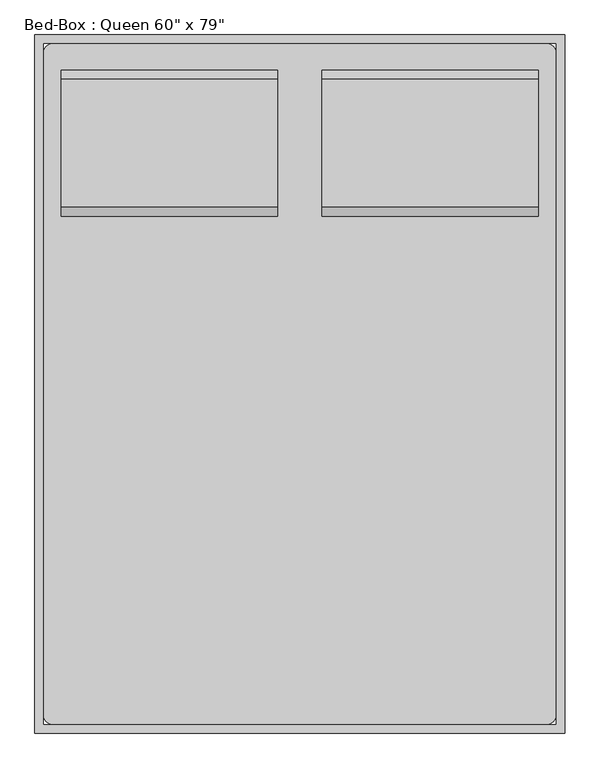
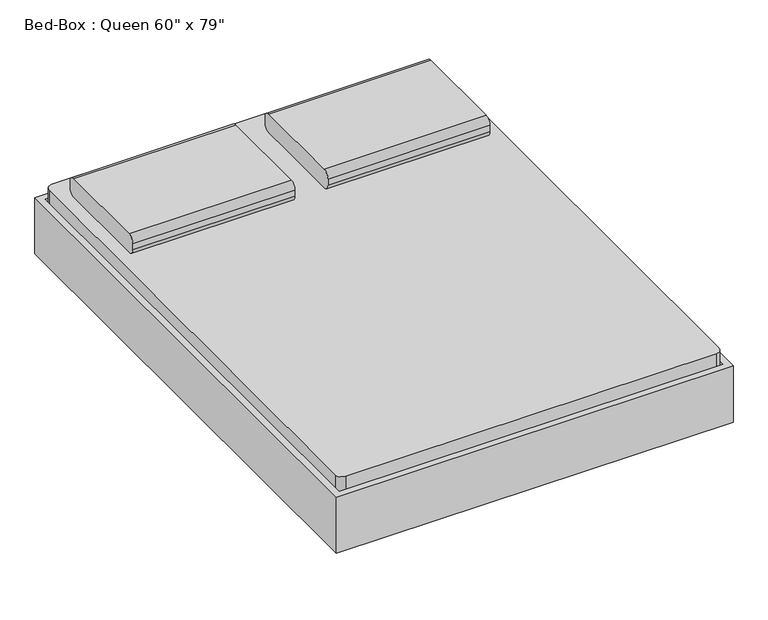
"""IFC4 building model written with IfcOpenShell, lengths in millimetres: furniture geometry."""

from ifc_helpers import new_model, si_unit, point, frame, frame_2d, origin, place, context, project, spatial, polyline, circle_curve, trimmed, segment, composite_curve, outline, extrude, source, transform, mapped, element, save
from ifc_brep_helpers import plane_surface, cylinder_surface, revolved_surface, advanced_brep


def furniture_fb3a1094(model_context):
    return source(origin(), model_context, "Body", "SolidModel", [
        extrude(outline(composite_curve([segment(polyline([(641.8704918, 406.4), (273.5704918, 406.4)]), True, "CONTINUOUS"), segment(trimmed(circle_curve(frame_2d((273.5704918, 431.8)), 25.4), [point((273.5704918, 406.4))], [point((248.1704918, 431.8))], False, "CARTESIAN"), True, "CONTINUOUS"), segment(polyline([(248.1704918, 431.8), (248.1704918, 457.2)]), True, "CONTINUOUS"), segment(trimmed(circle_curve(frame_2d((273.5704918, 457.2)), 25.4), [point((248.1704918, 457.2))], [point((273.5704918, 482.6))], False, "CARTESIAN"), True, "CONTINUOUS"), segment(polyline([(273.5704918, 482.6), (641.8704918, 482.6)]), True, "CONTINUOUS"), segment(trimmed(circle_curve(frame_2d((641.8704918, 457.2)), 25.4), [point((641.8704918, 482.6))], [point((667.2704918, 457.2))], False, "CARTESIAN"), True, "CONTINUOUS"), segment(polyline([(667.2704918, 457.2), (667.2704918, 431.8)]), True, "CONTINUOUS"), segment(trimmed(circle_curve(frame_2d((641.8704918, 431.8)), 25.4), [point((667.2704918, 431.8))], [point((641.8704918, 406.4))], False, "CARTESIAN"), True, "CONTINUOUS")], self_intersect=False)), frame((402.652459, 0.0, 0.0), z_axis=(1.0, 0.0, 0.0), x_axis=(0.0, 1.0, 0.0)), (0.0, 0.0, 1.0), 622.3),
        extrude(outline(composite_curve([segment(polyline([(641.8704918, 406.4), (273.5704918, 406.4)]), True, "CONTINUOUS"), segment(trimmed(circle_curve(frame_2d((273.5704918, 431.8)), 25.4), [point((273.5704918, 406.4))], [point((248.1704918, 431.8))], False, "CARTESIAN"), True, "CONTINUOUS"), segment(polyline([(248.1704918, 431.8), (248.1704918, 457.2)]), True, "CONTINUOUS"), segment(trimmed(circle_curve(frame_2d((273.5704918, 457.2)), 25.4), [point((248.1704918, 457.2))], [point((273.5704918, 482.6))], False, "CARTESIAN"), True, "CONTINUOUS"), segment(polyline([(273.5704918, 482.6), (641.8704918, 482.6)]), True, "CONTINUOUS"), segment(trimmed(circle_curve(frame_2d((641.8704918, 457.2)), 25.4), [point((641.8704918, 482.6))], [point((667.2704918, 457.2))], False, "CARTESIAN"), True, "CONTINUOUS"), segment(polyline([(667.2704918, 457.2), (667.2704918, 431.8)]), True, "CONTINUOUS"), segment(trimmed(circle_curve(frame_2d((641.8704918, 431.8)), 25.4), [point((667.2704918, 431.8))], [point((641.8704918, 406.4))], False, "CARTESIAN"), True, "CONTINUOUS")], self_intersect=False)), frame((-346.647541, 0.0, 0.0), z_axis=(1.0, 0.0, 0.0), x_axis=(0.0, 1.0, 0.0)), (0.0, 0.0, 1.0), 622.3),
        advanced_brep(
        [(-397.1231784, 514.8704918, 177.8), (-397.1231784, 438.6704918, 177.8), (-397.1231784, 438.6704918, 196.85), (-397.1231784, 514.8704918, 196.85), (-346.3231784, 514.8704918, 177.8), (-346.3231784, 438.6704918, 177.8), (-334.1869899, 438.6704918, 196.85), (-334.1869899, 514.8704918, 196.85), (-270.2523099, 514.8704918, 14.6654962), (-270.2523099, 438.6704918, 14.6654962), (-252.9871466, 438.6704918, 22.716374), (-252.9871466, 514.8704918, 22.716374), (-247.2320921, 438.6704918, 0.0), (-247.2320921, 514.8704918, 0.0), (-247.2320921, 438.6704918, 19.05), (-247.2320921, 514.8704918, 19.05), (-168.6195862, 514.8704918, 0.0), (-168.6195862, 438.6704918, 0.0), (-168.6195862, 438.6704918, 19.05), (-168.6195862, 514.8704918, 19.05), (-155.9195862, 438.6704918, 3.4029547), (-155.9195862, 514.8704918, 3.4029547), (-165.4445862, 438.6704918, 19.9007387), (-165.4445862, 514.8704918, 19.9007387), (-95.822541, 514.8704918, 38.1), (-95.822541, 438.6704918, 38.1), (-100.9269731, 438.6704918, 57.15), (-100.9269731, 514.8704918, 57.15), (774.4518216, 514.8704918, 38.1), (774.4518216, 438.6704918, 38.1), (779.5562537, 438.6704918, 57.15), (779.5562537, 514.8704918, 57.15), (834.5488669, 514.8704918, 3.4029547), (834.5488669, 438.6704918, 3.4029547), (844.0738669, 438.6704918, 19.9007387), (844.0738669, 514.8704918, 19.9007387), (847.2488669, 438.6704918, 0.0), (847.2488669, 514.8704918, 0.0), (847.2488669, 438.6704918, 19.05), (847.2488669, 514.8704918, 19.05), (925.8613728, 514.8704918, 0.0), (925.8613728, 438.6704918, 0.0), (925.8613728, 438.6704918, 19.05), (925.8613728, 514.8704918, 19.05), (948.8815906, 438.6704918, 14.6654962), (948.8815906, 514.8704918, 14.6654962), (931.6164272, 438.6704918, 22.716374), (931.6164272, 514.8704918, 22.716374), (1024.952459, 514.8704918, 177.8), (1024.952459, 438.6704918, 177.8), (1012.8162705, 438.6704918, 196.85), (1012.8162705, 514.8704918, 196.85), (1075.752459, 514.8704918, 177.8), (1075.752459, 514.8704918, 196.85), (1075.752459, 438.6704918, 196.85), (1075.752459, 438.6704918, 177.8)],
        [
            (0, 1),
            (1, 2),
            (2, 3),
            (3, 0),
            (0, 4),
            (4, 5),
            (5, 1),
            (5, 6),
            (6, 2),
            (6, 7),
            (7, 3),
            (7, 4),
            (4, 8),
            (8, 9),
            (9, 5),
            (9, 10),
            (10, 6),
            (10, 11),
            (11, 7),
            (11, 8),
            (12, 9, circle_curve(frame((-247.2320921, 438.6704918, 25.4), z_axis=(0.0, 1.0, 0.0), x_axis=(-0.9063077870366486, 0.0, -0.42261826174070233)), 25.4)),
            (8, 13, circle_curve(frame((-247.2320921, 514.8704918, 25.4), z_axis=(0.0, -1.0, 0.0), x_axis=(-0.9063077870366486, 0.0, -0.42261826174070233)), 25.4)),
            (13, 12),
            (14, 10, circle_curve(frame((-247.2320921, 438.6704918, 25.4), z_axis=(0.0, 1.0, 0.0), x_axis=(-0.9063077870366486, 0.0, -0.42261826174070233)), 6.35)),
            (12, 14),
            (15, 11, circle_curve(frame((-247.2320921, 514.8704918, 25.4), z_axis=(0.0, 1.0, 0.0), x_axis=(-0.9063077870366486, 0.0, -0.42261826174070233)), 6.35)),
            (14, 15),
            (15, 13),
            (13, 16),
            (16, 17),
            (17, 12),
            (17, 18),
            (18, 14),
            (18, 19),
            (19, 15),
            (19, 16),
            (20, 17, circle_curve(frame((-168.6195862, 438.6704918, 25.4), z_axis=(0.0, 1.0, 0.0), x_axis=(0.0, 0.0, -1.0)), 25.4)),
            (16, 21, circle_curve(frame((-168.6195862, 514.8704918, 25.4), z_axis=(0.0, -1.0, 0.0), x_axis=(0.0, 0.0, -1.0)), 25.4)),
            (21, 20),
            (22, 18, circle_curve(frame((-168.6195862, 438.6704918, 25.4), z_axis=(0.0, 1.0, 0.0), x_axis=(0.0, 0.0, -1.0)), 6.35)),
            (20, 22),
            (23, 19, circle_curve(frame((-168.6195862, 514.8704918, 25.4), z_axis=(0.0, 1.0, 0.0), x_axis=(0.0, 0.0, -1.0)), 6.35)),
            (22, 23),
            (23, 21),
            (21, 24),
            (24, 25),
            (25, 20),
            (25, 26),
            (26, 22),
            (26, 27),
            (27, 23),
            (27, 24),
            (24, 28),
            (28, 29),
            (29, 25),
            (29, 30),
            (30, 26),
            (30, 31),
            (31, 27),
            (31, 28),
            (28, 32),
            (32, 33),
            (33, 29),
            (33, 34),
            (34, 30),
            (34, 35),
            (35, 31),
            (35, 32),
            (36, 33, circle_curve(frame((847.2488669, 438.6704918, 25.4), z_axis=(0.0, 1.0, 0.0), x_axis=(-0.5000000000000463, 0.0, -0.8660254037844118)), 25.4)),
            (32, 37, circle_curve(frame((847.2488669, 514.8704918, 25.4), z_axis=(0.0, -1.0, 0.0), x_axis=(-0.5000000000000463, 0.0, -0.8660254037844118)), 25.4)),
            (37, 36),
            (38, 34, circle_curve(frame((847.2488669, 438.6704918, 25.4), z_axis=(0.0, 1.0, 0.0), x_axis=(-0.5000000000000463, 0.0, -0.8660254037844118)), 6.35)),
            (36, 38),
            (39, 35, circle_curve(frame((847.2488669, 514.8704918, 25.4), z_axis=(0.0, 1.0, 0.0), x_axis=(-0.5000000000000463, 0.0, -0.8660254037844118)), 6.35)),
            (38, 39),
            (39, 37),
            (37, 40),
            (40, 41),
            (41, 36),
            (41, 42),
            (42, 38),
            (42, 43),
            (43, 39),
            (43, 40),
            (44, 41, circle_curve(frame((925.8613728, 438.6704918, 25.4), z_axis=(0.0, 1.0, 0.0), x_axis=(0.0, 0.0, -1.0)), 25.4)),
            (40, 45, circle_curve(frame((925.8613728, 514.8704918, 25.4), z_axis=(0.0, -1.0, 0.0), x_axis=(0.0, 0.0, -1.0)), 25.4)),
            (45, 44),
            (46, 42, circle_curve(frame((925.8613728, 438.6704918, 25.4), z_axis=(0.0, 1.0, 0.0), x_axis=(0.0, 0.0, -1.0)), 6.35)),
            (44, 46),
            (47, 43, circle_curve(frame((925.8613728, 514.8704918, 25.4), z_axis=(0.0, 1.0, 0.0), x_axis=(0.0, 0.0, -1.0)), 6.35)),
            (46, 47),
            (47, 45),
            (45, 48),
            (48, 49),
            (49, 44),
            (49, 50),
            (50, 46),
            (50, 51),
            (51, 47),
            (51, 48),
            (52, 53),
            (53, 54),
            (54, 55),
            (55, 52),
            (48, 52),
            (55, 49),
            (54, 50),
            (53, 51),
        ],
        [
            plane_surface(frame((-397.1231784, 768.8704918, -152.9490627), z_axis=(-1.0, 0.0, 0.0), x_axis=(0.0, 1.0, 0.0))),
            plane_surface(frame((-397.1231784, 514.8704918, 177.8), z_axis=(0.0, 0.0, -1.0), x_axis=(1.0, 0.0, 0.0))),
            plane_surface(frame((-397.1231784, 438.6704918, 177.8), z_axis=(0.0, -1.0, 0.0), x_axis=(1.0, 0.0, 0.0))),
            plane_surface(frame((-397.1231784, 438.6704918, 196.85), z_axis=(0.0, 0.0, 1.0), x_axis=(1.0, 0.0, 0.0))),
            plane_surface(frame((-397.1231784, 514.8704918, 196.85), z_axis=(0.0, 1.0, 0.0), x_axis=(1.0, 0.0, 0.0))),
            plane_surface(frame((-346.3231784, 514.8704918, 177.8), z_axis=(-0.9063077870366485, 0.0, -0.4226182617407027), x_axis=(0.4226182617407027, 0.0, -0.9063077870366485))),
            plane_surface(frame((-346.3231784, 438.6704918, 177.8), z_axis=(0.0, -1.0, 0.0), x_axis=(0.4226182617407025, 0.0, -0.9063077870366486))),
            plane_surface(frame((-334.1869899, 438.6704918, 196.85), z_axis=(0.9063077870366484, 0.0, 0.4226182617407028), x_axis=(0.4226182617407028, 0.0, -0.9063077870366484))),
            plane_surface(frame((-334.1869899, 514.8704918, 196.85), z_axis=(0.0, 1.0, 0.0), x_axis=(0.42261826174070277, 0.0, -0.9063077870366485))),
            cylinder_surface(frame((-247.2320921, 768.8704918, 25.4), z_axis=(0.0, -1.0, 0.0), x_axis=(-0.9063077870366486, 0.0, -0.42261826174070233)), 25.4),
            plane_surface(frame((-247.2320921, 438.6704918, 25.4), z_axis=(0.0, -1.0, 0.0), x_axis=(-0.9063077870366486, 0.0, -0.42261826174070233))),
            revolved_surface(polyline([(-252.9871465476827, 438.6704918, 22.71637403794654), (-252.9871465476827, 514.8704918, 22.71637403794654)]), (-247.2320921, 768.8704918, 25.4), (0.0, -1.0, 0.0)),
            plane_surface(frame((-247.2320921, 514.8704918, 25.4), z_axis=(0.0, 1.0, 0.0), x_axis=(-0.9063077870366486, 0.0, -0.42261826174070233))),
            plane_surface(frame((-247.2320921, 514.8704918, 0.0), z_axis=(0.0, 0.0, -1.0), x_axis=(1.0, 0.0, 0.0))),
            plane_surface(frame((-247.2320921, 438.6704918, 0.0), z_axis=(0.0, -1.0, 0.0), x_axis=(1.0, 0.0, 0.0))),
            plane_surface(frame((-247.2320921, 438.6704918, 19.05), z_axis=(0.0, 0.0, 1.0), x_axis=(1.0, 0.0, 0.0))),
            plane_surface(frame((-247.2320921, 514.8704918, 19.05), z_axis=(0.0, 1.0, 0.0), x_axis=(1.0, 0.0, 0.0))),
            cylinder_surface(frame((-168.6195862, 768.8704918, 25.4), z_axis=(0.0, -1.0, 0.0), x_axis=(0.0, 0.0, -1.0)), 25.4),
            plane_surface(frame((-168.6195862, 438.6704918, 25.4), z_axis=(0.0, -1.0, 0.0), x_axis=(0.0, 0.0, -1.0))),
            revolved_surface(polyline([(-168.6195862, 438.6704918, 19.049999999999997), (-168.6195862, 514.8704918, 19.049999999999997)]), (-168.6195862, 768.8704918, 25.4), (0.0, -1.0, 0.0)),
            plane_surface(frame((-168.6195862, 514.8704918, 25.4), z_axis=(0.0, 1.0, 0.0), x_axis=(0.0, 0.0, -1.0))),
            plane_surface(frame((-155.9195862, 514.8704918, 3.4029547), z_axis=(0.4999999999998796, 0.0, -0.8660254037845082), x_axis=(0.8660254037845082, 0.0, 0.4999999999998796))),
            plane_surface(frame((-155.9195862, 438.6704918, 3.4029547), z_axis=(0.0, -1.0, 0.0), x_axis=(0.866025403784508, 0.0, 0.4999999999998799))),
            plane_surface(frame((-165.4445862, 438.6704918, 19.9007387), z_axis=(-0.49999999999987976, 0.0, 0.8660254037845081), x_axis=(0.8660254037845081, 0.0, 0.49999999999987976))),
            plane_surface(frame((-165.4445862, 514.8704918, 19.9007387), z_axis=(0.0, 1.0, 0.0), x_axis=(0.8660254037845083, 0.0, 0.49999999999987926))),
            plane_surface(frame((-95.822541, 514.8704918, 38.1), z_axis=(0.0, 0.0, -1.0), x_axis=(1.0, 0.0, 0.0))),
            plane_surface(frame((-95.822541, 438.6704918, 38.1), z_axis=(0.0, -1.0, 0.0), x_axis=(1.0, 0.0, 0.0))),
            plane_surface(frame((-100.9269731, 438.6704918, 57.15), z_axis=(0.0, 0.0, 1.0), x_axis=(1.0, 0.0, 0.0))),
            plane_surface(frame((-100.9269731, 514.8704918, 57.15), z_axis=(0.0, 1.0, 0.0), x_axis=(1.0, 0.0, 0.0))),
            plane_surface(frame((774.4518216, 514.8704918, 38.1), z_axis=(-0.5000000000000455, 0.0, -0.8660254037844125), x_axis=(0.8660254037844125, 0.0, -0.5000000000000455))),
            plane_surface(frame((774.4518216, 438.6704918, 38.1), z_axis=(0.0, -1.0, 0.0), x_axis=(0.866025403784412, 0.0, -0.5000000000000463))),
            plane_surface(frame((779.5562537, 438.6704918, 57.15), z_axis=(0.5000000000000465, 0.0, 0.8660254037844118), x_axis=(0.8660254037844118, 0.0, -0.5000000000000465))),
            plane_surface(frame((779.5562537, 514.8704918, 57.15), z_axis=(0.0, 1.0, 0.0), x_axis=(0.8660254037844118, 0.0, -0.5000000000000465))),
            cylinder_surface(frame((847.2488669, 768.8704918, 25.4), z_axis=(0.0, -1.0, 0.0), x_axis=(-0.5000000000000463, 0.0, -0.8660254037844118)), 25.4),
            plane_surface(frame((847.2488669, 438.6704918, 25.4), z_axis=(0.0, -1.0000000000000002, 0.0), x_axis=(-0.5000000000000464, 0.0, -0.866025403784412))),
            revolved_surface(polyline([(844.0738668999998, 438.6704918, 19.90073868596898), (844.0738668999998, 514.8704918, 19.90073868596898)]), (847.2488669, 768.8704918, 25.4), (0.0, -1.0, 0.0)),
            plane_surface(frame((847.2488669, 514.8704918, 25.4), z_axis=(0.0, 1.0000000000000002, 0.0), x_axis=(-0.5000000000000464, 0.0, -0.866025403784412))),
            plane_surface(frame((847.2488669, 514.8704918, 0.0), z_axis=(0.0, 0.0, -1.0), x_axis=(1.0, 0.0, 0.0))),
            plane_surface(frame((847.2488669, 438.6704918, 0.0), z_axis=(0.0, -1.0, 0.0), x_axis=(1.0, 0.0, 0.0))),
            plane_surface(frame((847.2488669, 438.6704918, 19.05), z_axis=(0.0, 0.0, 1.0), x_axis=(1.0, 0.0, 0.0))),
            plane_surface(frame((847.2488669, 514.8704918, 19.05), z_axis=(0.0, 1.0, 0.0), x_axis=(1.0, 0.0, 0.0))),
            cylinder_surface(frame((925.8613728, 768.8704918, 25.4), z_axis=(0.0, -1.0, 0.0), x_axis=(0.0, 0.0, -1.0)), 25.4),
            plane_surface(frame((925.8613728, 438.6704918, 25.4), z_axis=(0.0, -1.0, 0.0), x_axis=(0.0, 0.0, -1.0))),
            revolved_surface(polyline([(925.8613728, 438.6704918, 19.049999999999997), (925.8613728, 514.8704918, 19.049999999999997)]), (925.8613728, 768.8704918, 25.4), (0.0, -1.0, 0.0)),
            plane_surface(frame((925.8613728, 514.8704918, 25.4), z_axis=(0.0, 1.0, 0.0), x_axis=(0.0, 0.0, -1.0))),
            plane_surface(frame((948.8815906, 514.8704918, 14.6654962), z_axis=(0.9063077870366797, 0.0, -0.42261826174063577), x_axis=(0.42261826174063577, 0.0, 0.9063077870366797))),
            plane_surface(frame((948.8815906, 438.6704918, 14.6654962), z_axis=(0.0, -1.0, 0.0), x_axis=(0.4226182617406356, 0.0, 0.9063077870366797))),
            plane_surface(frame((931.6164272, 438.6704918, 22.716374), z_axis=(-0.9063077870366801, 0.0, 0.42261826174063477), x_axis=(0.42261826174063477, 0.0, 0.9063077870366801))),
            plane_surface(frame((931.6164272, 514.8704918, 22.716374), z_axis=(0.0, 1.0, 0.0), x_axis=(0.4226182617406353, 0.0, 0.9063077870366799))),
            plane_surface(frame((1075.752459, 768.8704918, -152.9490627), z_axis=(1.0, 0.0, 0.0), x_axis=(0.0, 1.0, 0.0))),
            plane_surface(frame((1024.952459, 514.8704918, 177.8), z_axis=(0.0, 0.0, -1.0), x_axis=(1.0, 0.0, 0.0))),
            plane_surface(frame((1024.952459, 438.6704918, 177.8), z_axis=(0.0, -1.0, 0.0), x_axis=(1.0, 0.0, 0.0))),
            plane_surface(frame((1012.8162705, 438.6704918, 196.85), z_axis=(0.0, 0.0, 1.0), x_axis=(1.0, 0.0, 0.0))),
            plane_surface(frame((1012.8162705, 514.8704918, 196.85), z_axis=(0.0, 1.0, 0.0), x_axis=(1.0, 0.0, 0.0))),
        ],
        [
            (0, [[1, 2, 3, 4]]),
            (1, [[-1, 5, 6, 7]]),
            (2, [[-2, -7, 8, 9]]),
            (3, [[-3, -9, 10, 11]]),
            (4, [[-4, -11, 12, -5]]),
            (5, [[-6, 13, 14, 15]]),
            (6, [[-8, -15, 16, 17]]),
            (7, [[-10, -17, 18, 19]]),
            (8, [[-12, -19, 20, -13]]),
            (9, [[21, -14, 22, 23]]),
            (10, [[24, -16, -21, 25]]),
            (11, [[26, -18, -24, 27]]),
            (12, [[-22, -20, -26, 28]]),
            (13, [[-23, 29, 30, 31]]),
            (14, [[-25, -31, 32, 33]]),
            (15, [[-27, -33, 34, 35]]),
            (16, [[-28, -35, 36, -29]]),
            (17, [[37, -30, 38, 39]]),
            (18, [[40, -32, -37, 41]]),
            (19, [[42, -34, -40, 43]]),
            (20, [[-38, -36, -42, 44]]),
            (21, [[-39, 45, 46, 47]]),
            (22, [[-41, -47, 48, 49]]),
            (23, [[-43, -49, 50, 51]]),
            (24, [[-44, -51, 52, -45]]),
            (25, [[-46, 53, 54, 55]]),
            (26, [[-48, -55, 56, 57]]),
            (27, [[-50, -57, 58, 59]]),
            (28, [[-52, -59, 60, -53]]),
            (29, [[-54, 61, 62, 63]]),
            (30, [[-56, -63, 64, 65]]),
            (31, [[-58, -65, 66, 67]]),
            (32, [[-60, -67, 68, -61]]),
            (33, [[69, -62, 70, 71]]),
            (34, [[72, -64, -69, 73]]),
            (35, [[74, -66, -72, 75]]),
            (36, [[-70, -68, -74, 76]]),
            (37, [[-71, 77, 78, 79]]),
            (38, [[-73, -79, 80, 81]]),
            (39, [[-75, -81, 82, 83]]),
            (40, [[-76, -83, 84, -77]]),
            (41, [[85, -78, 86, 87]]),
            (42, [[88, -80, -85, 89]]),
            (43, [[90, -82, -88, 91]]),
            (44, [[-86, -84, -90, 92]]),
            (45, [[-87, 93, 94, 95]]),
            (46, [[-89, -95, 96, 97]]),
            (47, [[-91, -97, 98, 99]]),
            (48, [[-92, -99, 100, -93]]),
            (49, [[101, 102, 103, 104]]),
            (50, [[-94, 105, -104, 106]]),
            (51, [[-96, -106, -103, 107]]),
            (52, [[-98, -107, -102, 108]]),
            (53, [[-100, -108, -101, -105]]),
        ],
    ),
        extrude(outline(composite_curve([segment(polyline([(-372.047541, 743.4704918), (1050.352459, 743.4704918)]), True, "CONTINUOUS"), segment(trimmed(circle_curve(frame_2d((1050.352459, 718.0704918)), 25.4), [point((1050.352459, 743.4704918))], [point((1075.752459, 718.0704918))], False, "CARTESIAN"), True, "CONTINUOUS"), segment(polyline([(1075.752459, 718.0704918), (1075.752459, -1186.9295082)]), True, "CONTINUOUS"), segment(trimmed(circle_curve(frame_2d((1050.352459, -1186.9295082)), 25.4), [point((1075.752459, -1186.9295082))], [point((1050.352459, -1212.3295082))], False, "CARTESIAN"), True, "CONTINUOUS"), segment(polyline([(1050.352459, -1212.3295082), (-372.047541, -1212.3295082)]), True, "CONTINUOUS"), segment(trimmed(circle_curve(frame_2d((-372.047541, -1186.9295082)), 25.4), [point((-372.047541, -1212.3295082))], [point((-397.447541, -1186.9295082))], False, "CARTESIAN"), True, "CONTINUOUS"), segment(polyline([(-397.447541, -1186.9295082), (-397.447541, 718.0704918)]), True, "CONTINUOUS"), segment(trimmed(circle_curve(frame_2d((-372.047541, 718.0704918)), 25.4), [point((-397.447541, 718.0704918))], [point((-372.047541, 743.4704918))], False, "CARTESIAN"), True, "CONTINUOUS")], self_intersect=False)), frame((0.0, 0.0, 203.2), z_axis=(0.0, 0.0, 1.0), x_axis=(1.0, 0.0, 0.0)), (0.0, 0.0, 1.0), 203.2),
        advanced_brep(
        [(-397.447541, -932.9295082, 196.85), (-397.447541, -932.9295082, 177.8), (-397.447541, -1009.1295082, 177.8), (-397.447541, -1009.1295082, 196.85), (-334.5113525, -932.9295082, 196.85), (-346.647541, -932.9295082, 177.8), (-346.647541, -1009.1295082, 177.8), (-334.5113525, -1009.1295082, 196.85), (-253.3115092, -932.9295082, 22.716374), (-270.5766725, -932.9295082, 14.6654962), (-270.5766725, -1009.1295082, 14.6654962), (-253.3115092, -1009.1295082, 22.716374), (-247.5564547, -932.9295082, 0.0), (-247.5564547, -932.9295082, 19.05), (-247.5564547, -1009.1295082, 0.0), (-247.5564547, -1009.1295082, 19.05), (-168.9439489, -932.9295082, 19.05), (-168.9439489, -932.9295082, 0.0), (-168.9439489, -1009.1295082, 0.0), (-168.9439489, -1009.1295082, 19.05), (-156.2439489, -932.9295082, 3.4029547), (-165.7689489, -932.9295082, 19.9007387), (-156.2439489, -1009.1295082, 3.4029547), (-165.7689489, -1009.1295082, 19.9007387), (-101.2513357, -932.9295082, 57.15), (-96.1469036, -932.9295082, 38.1), (-96.1469036, -1009.1295082, 38.1), (-101.2513357, -1009.1295082, 57.15), (779.5562537, -932.9295082, 57.15), (774.4518216, -932.9295082, 38.1), (774.4518216, -1009.1295082, 38.1), (779.5562537, -1009.1295082, 57.15), (844.0738669, -932.9295082, 19.9007387), (834.5488669, -932.9295082, 3.4029547), (834.5488669, -1009.1295082, 3.4029547), (844.0738669, -1009.1295082, 19.9007387), (847.2488669, -932.9295082, 0.0), (847.2488669, -932.9295082, 19.05), (847.2488669, -1009.1295082, 0.0), (847.2488669, -1009.1295082, 19.05), (925.8613728, -932.9295082, 19.05), (925.8613728, -932.9295082, 0.0), (925.8613728, -1009.1295082, 0.0), (925.8613728, -1009.1295082, 19.05), (948.8815906, -932.9295082, 14.6654962), (931.6164272, -932.9295082, 22.716374), (948.8815906, -1009.1295082, 14.6654962), (931.6164272, -1009.1295082, 22.716374), (1012.8162705, -932.9295082, 196.85), (1024.952459, -932.9295082, 177.8), (1024.952459, -1009.1295082, 177.8), (1012.8162705, -1009.1295082, 196.85), (1075.752459, -932.9295082, 196.85), (1075.752459, -1009.1295082, 196.85), (1075.752459, -1009.1295082, 177.8), (1075.752459, -932.9295082, 177.8)],
        [
            (0, 1),
            (1, 2),
            (2, 3),
            (3, 0),
            (0, 4),
            (4, 5),
            (5, 1),
            (5, 6),
            (6, 2),
            (6, 7),
            (7, 3),
            (7, 4),
            (4, 8),
            (8, 9),
            (9, 5),
            (9, 10),
            (10, 6),
            (10, 11),
            (11, 7),
            (11, 8),
            (12, 9, circle_curve(frame((-247.5564547, -932.9295082, 25.4), z_axis=(0.0, 1.0, 0.0), x_axis=(-0.906307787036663, 0.0, -0.4226182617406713)), 25.4)),
            (8, 13, circle_curve(frame((-247.5564547, -932.9295082, 25.4), z_axis=(0.0, -1.0, 0.0), x_axis=(-0.906307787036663, 0.0, -0.4226182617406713)), 6.35)),
            (13, 12),
            (14, 10, circle_curve(frame((-247.5564547, -1009.1295082, 25.4), z_axis=(0.0, 1.0, 0.0), x_axis=(-0.906307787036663, 0.0, -0.4226182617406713)), 25.4)),
            (12, 14),
            (15, 11, circle_curve(frame((-247.5564547, -1009.1295082, 25.4), z_axis=(0.0, 1.0, 0.0), x_axis=(-0.906307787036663, 0.0, -0.4226182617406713)), 6.35)),
            (14, 15),
            (15, 13),
            (13, 16),
            (16, 17),
            (17, 12),
            (17, 18),
            (18, 14),
            (18, 19),
            (19, 15),
            (19, 16),
            (20, 17, circle_curve(frame((-168.9439489, -932.9295082, 25.4), z_axis=(0.0, 1.0, 0.0), x_axis=(0.0, 0.0, -1.0)), 25.4)),
            (16, 21, circle_curve(frame((-168.9439489, -932.9295082, 25.4), z_axis=(0.0, -1.0, 0.0), x_axis=(0.0, 0.0, -1.0)), 6.35)),
            (21, 20),
            (22, 18, circle_curve(frame((-168.9439489, -1009.1295082, 25.4), z_axis=(0.0, 1.0, 0.0), x_axis=(0.0, 0.0, -1.0)), 25.4)),
            (20, 22),
            (23, 19, circle_curve(frame((-168.9439489, -1009.1295082, 25.4), z_axis=(0.0, 1.0, 0.0), x_axis=(0.0, 0.0, -1.0)), 6.35)),
            (22, 23),
            (23, 21),
            (21, 24),
            (24, 25),
            (25, 20),
            (25, 26),
            (26, 22),
            (26, 27),
            (27, 23),
            (27, 24),
            (24, 28),
            (28, 29),
            (29, 25),
            (29, 30),
            (30, 26),
            (30, 31),
            (31, 27),
            (31, 28),
            (28, 32),
            (32, 33),
            (33, 29),
            (33, 34),
            (34, 30),
            (34, 35),
            (35, 31),
            (35, 32),
            (36, 33, circle_curve(frame((847.2488669, -932.9295082, 25.4), z_axis=(0.0, 1.0, 0.0), x_axis=(-0.5000000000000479, 0.0, -0.866025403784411)), 25.4)),
            (32, 37, circle_curve(frame((847.2488669, -932.9295082, 25.4), z_axis=(0.0, -1.0, 0.0), x_axis=(-0.5000000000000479, 0.0, -0.866025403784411)), 6.35)),
            (37, 36),
            (38, 34, circle_curve(frame((847.2488669, -1009.1295082, 25.4), z_axis=(0.0, 1.0, 0.0), x_axis=(-0.5000000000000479, 0.0, -0.866025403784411)), 25.4)),
            (36, 38),
            (39, 35, circle_curve(frame((847.2488669, -1009.1295082, 25.4), z_axis=(0.0, 1.0, 0.0), x_axis=(-0.5000000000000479, 0.0, -0.866025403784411)), 6.35)),
            (38, 39),
            (39, 37),
            (37, 40),
            (40, 41),
            (41, 36),
            (41, 42),
            (42, 38),
            (42, 43),
            (43, 39),
            (43, 40),
            (44, 41, circle_curve(frame((925.8613728, -932.9295082, 25.4), z_axis=(0.0, 1.0, 0.0), x_axis=(0.0, 0.0, -1.0)), 25.4)),
            (40, 45, circle_curve(frame((925.8613728, -932.9295082, 25.4), z_axis=(0.0, -1.0, 0.0), x_axis=(0.0, 0.0, -1.0)), 6.35)),
            (45, 44),
            (46, 42, circle_curve(frame((925.8613728, -1009.1295082, 25.4), z_axis=(0.0, 1.0, 0.0), x_axis=(0.0, 0.0, -1.0)), 25.4)),
            (44, 46),
            (47, 43, circle_curve(frame((925.8613728, -1009.1295082, 25.4), z_axis=(0.0, 1.0, 0.0), x_axis=(0.0, 0.0, -1.0)), 6.35)),
            (46, 47),
            (47, 45),
            (45, 48),
            (48, 49),
            (49, 44),
            (49, 50),
            (50, 46),
            (50, 51),
            (51, 47),
            (51, 48),
            (52, 53),
            (53, 54),
            (54, 55),
            (55, 52),
            (48, 52),
            (55, 49),
            (54, 50),
            (53, 51),
        ],
        [
            plane_surface(frame((-397.447541, -1237.7295082, -127.5947323), z_axis=(-1.0, 0.0, 0.0), x_axis=(0.0, 1.0, 0.0))),
            plane_surface(frame((-397.447541, -932.9295082, 196.85), z_axis=(0.0, 1.0, 0.0), x_axis=(1.0, 0.0, 0.0))),
            plane_surface(frame((-397.447541, -932.9295082, 177.8), z_axis=(0.0, 0.0, -1.0), x_axis=(1.0, 0.0, 0.0))),
            plane_surface(frame((-397.447541, -1009.1295082, 177.8), z_axis=(0.0, -1.0, 0.0), x_axis=(1.0, 0.0, 0.0))),
            plane_surface(frame((-397.447541, -1009.1295082, 196.85), z_axis=(0.0, 0.0, 1.0), x_axis=(1.0, 0.0, 0.0))),
            plane_surface(frame((-334.5113525, -932.9295082, 196.85), z_axis=(0.0, 1.0, 0.0), x_axis=(0.4226182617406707, 0.0, -0.9063077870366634))),
            plane_surface(frame((-346.647541, -932.9295082, 177.8), z_axis=(-0.9063077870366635, 0.0, -0.4226182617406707), x_axis=(0.4226182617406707, 0.0, -0.9063077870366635))),
            plane_surface(frame((-346.647541, -1009.1295082, 177.8), z_axis=(0.0, -1.0, 0.0), x_axis=(0.422618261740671, 0.0, -0.9063077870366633))),
            plane_surface(frame((-334.5113525, -1009.1295082, 196.85), z_axis=(0.9063077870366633, 0.0, 0.42261826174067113), x_axis=(0.42261826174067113, 0.0, -0.9063077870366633))),
            plane_surface(frame((-247.5564547, -932.9295082, 25.4), z_axis=(0.0, 1.0, 0.0), x_axis=(-0.906307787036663, 0.0, -0.4226182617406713))),
            cylinder_surface(frame((-247.5564547, -1237.7295082, 25.4), z_axis=(0.0, -1.0, 0.0), x_axis=(-0.906307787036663, 0.0, -0.4226182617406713)), 25.4),
            plane_surface(frame((-247.5564547, -1009.1295082, 25.4), z_axis=(0.0, -1.0, 0.0), x_axis=(-0.906307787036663, 0.0, -0.4226182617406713))),
            revolved_surface(polyline([(-253.3115091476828, -1009.1295082, 22.716374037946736), (-253.3115091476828, -932.9295082, 22.716374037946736)]), (-247.5564547, -1237.7295082, 25.4), (0.0, -1.0, 0.0)),
            plane_surface(frame((-247.5564547, -932.9295082, 19.05), z_axis=(0.0, 1.0, 0.0), x_axis=(1.0, 0.0, 0.0))),
            plane_surface(frame((-247.5564547, -932.9295082, 0.0), z_axis=(0.0, 0.0, -1.0), x_axis=(1.0, 0.0, 0.0))),
            plane_surface(frame((-247.5564547, -1009.1295082, 0.0), z_axis=(0.0, -1.0, 0.0), x_axis=(1.0, 0.0, 0.0))),
            plane_surface(frame((-247.5564547, -1009.1295082, 19.05), z_axis=(0.0, 0.0, 1.0), x_axis=(1.0, 0.0, 0.0))),
            plane_surface(frame((-168.9439489, -932.9295082, 25.4), z_axis=(0.0, 1.0, 0.0), x_axis=(0.0, 0.0, -1.0))),
            cylinder_surface(frame((-168.9439489, -1237.7295082, 25.4), z_axis=(0.0, -1.0, 0.0), x_axis=(0.0, 0.0, -1.0)), 25.4),
            plane_surface(frame((-168.9439489, -1009.1295082, 25.4), z_axis=(0.0, -1.0, 0.0), x_axis=(0.0, 0.0, -1.0))),
            revolved_surface(polyline([(-168.9439489, -1009.1295082, 19.049999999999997), (-168.9439489, -932.9295082, 19.049999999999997)]), (-168.9439489, -1237.7295082, 25.4), (0.0, -1.0, 0.0)),
            plane_surface(frame((-165.7689489, -932.9295082, 19.9007387), z_axis=(0.0, 1.0, 0.0), x_axis=(0.8660254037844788, 0.0, 0.4999999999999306))),
            plane_surface(frame((-156.2439489, -932.9295082, 3.4029547), z_axis=(0.49999999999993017, 0.0, -0.866025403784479), x_axis=(0.866025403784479, 0.0, 0.49999999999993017))),
            plane_surface(frame((-156.2439489, -1009.1295082, 3.4029547), z_axis=(0.0, -1.0, 0.0), x_axis=(0.8660254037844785, 0.0, 0.49999999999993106))),
            plane_surface(frame((-165.7689489, -1009.1295082, 19.9007387), z_axis=(-0.4999999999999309, 0.0, 0.8660254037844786), x_axis=(0.8660254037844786, 0.0, 0.4999999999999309))),
            plane_surface(frame((-101.2513357, -932.9295082, 57.15), z_axis=(0.0, 1.0, 0.0), x_axis=(1.0, 0.0, 0.0))),
            plane_surface(frame((-96.1469036, -932.9295082, 38.1), z_axis=(0.0, 0.0, -1.0), x_axis=(1.0, 0.0, 0.0))),
            plane_surface(frame((-96.1469036, -1009.1295082, 38.1), z_axis=(0.0, -1.0, 0.0), x_axis=(1.0, 0.0, 0.0))),
            plane_surface(frame((-101.2513357, -1009.1295082, 57.15), z_axis=(0.0, 0.0, 1.0), x_axis=(1.0, 0.0, 0.0))),
            plane_surface(frame((779.5562537, -932.9295082, 57.15), z_axis=(0.0, 1.0000000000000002, 0.0), x_axis=(0.8660254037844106, 0.0, -0.5000000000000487))),
            plane_surface(frame((774.4518216, -932.9295082, 38.1), z_axis=(-0.5000000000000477, 0.0, -0.8660254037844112), x_axis=(0.8660254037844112, 0.0, -0.5000000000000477))),
            plane_surface(frame((774.4518216, -1009.1295082, 38.1), z_axis=(0.0, -1.0000000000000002, 0.0), x_axis=(0.8660254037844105, 0.0, -0.500000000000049))),
            plane_surface(frame((779.5562537, -1009.1295082, 57.15), z_axis=(0.5000000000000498, 0.0, 0.8660254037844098), x_axis=(0.8660254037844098, 0.0, -0.5000000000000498))),
            plane_surface(frame((847.2488669, -932.9295082, 25.4), z_axis=(0.0, 1.0000000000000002, 0.0), x_axis=(-0.500000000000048, 0.0, -0.8660254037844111))),
            cylinder_surface(frame((847.2488669, -1237.7295082, 25.4), z_axis=(0.0, -1.0, 0.0), x_axis=(-0.5000000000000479, 0.0, -0.866025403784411)), 25.4),
            plane_surface(frame((847.2488669, -1009.1295082, 25.4), z_axis=(0.0, -1.0000000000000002, 0.0), x_axis=(-0.500000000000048, 0.0, -0.8660254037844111))),
            revolved_surface(polyline([(844.0738668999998, -1009.1295082, 19.90073868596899), (844.0738668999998, -932.9295082, 19.90073868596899)]), (847.2488669, -1237.7295082, 25.4), (0.0, -1.0, 0.0)),
            plane_surface(frame((847.2488669, -932.9295082, 19.05), z_axis=(0.0, 1.0, 0.0), x_axis=(1.0, 0.0, 0.0))),
            plane_surface(frame((847.2488669, -932.9295082, 0.0), z_axis=(0.0, 0.0, -1.0), x_axis=(1.0, 0.0, 0.0))),
            plane_surface(frame((847.2488669, -1009.1295082, 0.0), z_axis=(0.0, -1.0, 0.0), x_axis=(1.0, 0.0, 0.0))),
            plane_surface(frame((847.2488669, -1009.1295082, 19.05), z_axis=(0.0, 0.0, 1.0), x_axis=(1.0, 0.0, 0.0))),
            plane_surface(frame((925.8613728, -932.9295082, 25.4), z_axis=(0.0, 1.0, 0.0), x_axis=(0.0, 0.0, -1.0))),
            cylinder_surface(frame((925.8613728, -1237.7295082, 25.4), z_axis=(0.0, -1.0, 0.0), x_axis=(0.0, 0.0, -1.0)), 25.4),
            plane_surface(frame((925.8613728, -1009.1295082, 25.4), z_axis=(0.0, -1.0, 0.0), x_axis=(0.0, 0.0, -1.0))),
            revolved_surface(polyline([(925.8613728, -1009.1295082, 19.049999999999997), (925.8613728, -932.9295082, 19.049999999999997)]), (925.8613728, -1237.7295082, 25.4), (0.0, -1.0, 0.0)),
            plane_surface(frame((931.6164272, -932.9295082, 22.716374), z_axis=(0.0, 1.0, 0.0), x_axis=(0.4226182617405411, 0.0, 0.9063077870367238))),
            plane_surface(frame((948.8815906, -932.9295082, 14.6654962), z_axis=(0.9063077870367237, 0.0, -0.4226182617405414), x_axis=(0.4226182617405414, 0.0, 0.9063077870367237))),
            plane_surface(frame((948.8815906, -1009.1295082, 14.6654962), z_axis=(0.0, -1.0, 0.0), x_axis=(0.42261826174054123, 0.0, 0.9063077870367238))),
            plane_surface(frame((931.6164272, -1009.1295082, 22.716374), z_axis=(-0.9063077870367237, 0.0, 0.4226182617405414), x_axis=(0.4226182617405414, 0.0, 0.9063077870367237))),
            plane_surface(frame((1075.752459, -1237.7295082, -127.5947323), z_axis=(1.0, 0.0, 0.0), x_axis=(0.0, 1.0, 0.0))),
            plane_surface(frame((1012.8162705, -932.9295082, 196.85), z_axis=(0.0, 1.0, 0.0), x_axis=(1.0, 0.0, 0.0))),
            plane_surface(frame((1024.952459, -932.9295082, 177.8), z_axis=(0.0, 0.0, -1.0), x_axis=(1.0, 0.0, 0.0))),
            plane_surface(frame((1024.952459, -1009.1295082, 177.8), z_axis=(0.0, -1.0, 0.0), x_axis=(1.0, 0.0, 0.0))),
            plane_surface(frame((1012.8162705, -1009.1295082, 196.85), z_axis=(0.0, 0.0, 1.0), x_axis=(1.0, 0.0, 0.0))),
        ],
        [
            (0, [[1, 2, 3, 4]]),
            (1, [[-1, 5, 6, 7]]),
            (2, [[-2, -7, 8, 9]]),
            (3, [[-3, -9, 10, 11]]),
            (4, [[-4, -11, 12, -5]]),
            (5, [[-6, 13, 14, 15]]),
            (6, [[-8, -15, 16, 17]]),
            (7, [[-10, -17, 18, 19]]),
            (8, [[-12, -19, 20, -13]]),
            (9, [[21, -14, 22, 23]]),
            (10, [[24, -16, -21, 25]]),
            (11, [[26, -18, -24, 27]]),
            (12, [[-22, -20, -26, 28]]),
            (13, [[-23, 29, 30, 31]]),
            (14, [[-25, -31, 32, 33]]),
            (15, [[-27, -33, 34, 35]]),
            (16, [[-28, -35, 36, -29]]),
            (17, [[37, -30, 38, 39]]),
            (18, [[40, -32, -37, 41]]),
            (19, [[42, -34, -40, 43]]),
            (20, [[-38, -36, -42, 44]]),
            (21, [[-39, 45, 46, 47]]),
            (22, [[-41, -47, 48, 49]]),
            (23, [[-43, -49, 50, 51]]),
            (24, [[-44, -51, 52, -45]]),
            (25, [[-46, 53, 54, 55]]),
            (26, [[-48, -55, 56, 57]]),
            (27, [[-50, -57, 58, 59]]),
            (28, [[-52, -59, 60, -53]]),
            (29, [[-54, 61, 62, 63]]),
            (30, [[-56, -63, 64, 65]]),
            (31, [[-58, -65, 66, 67]]),
            (32, [[-60, -67, 68, -61]]),
            (33, [[69, -62, 70, 71]]),
            (34, [[72, -64, -69, 73]]),
            (35, [[74, -66, -72, 75]]),
            (36, [[-70, -68, -74, 76]]),
            (37, [[-71, 77, 78, 79]]),
            (38, [[-73, -79, 80, 81]]),
            (39, [[-75, -81, 82, 83]]),
            (40, [[-76, -83, 84, -77]]),
            (41, [[85, -78, 86, 87]]),
            (42, [[88, -80, -85, 89]]),
            (43, [[90, -82, -88, 91]]),
            (44, [[-86, -84, -90, 92]]),
            (45, [[-87, 93, 94, 95]]),
            (46, [[-89, -95, 96, 97]]),
            (47, [[-91, -97, 98, 99]]),
            (48, [[-92, -99, 100, -93]]),
            (49, [[101, 102, 103, 104]]),
            (50, [[-94, 105, -104, 106]]),
            (51, [[-96, -106, -103, 107]]),
            (52, [[-98, -107, -102, 108]]),
            (53, [[-100, -108, -101, -105]]),
        ],
    ),
        extrude(outline(polyline([(1101.152459, 768.8704918), (1101.152459, -1237.7295082), (-422.847541, -1237.7295082), (-422.847541, 768.8704918), (1101.152459, 768.8704918)]), holes=[polyline([(1075.752459, 743.4704918), (-397.447541, 743.4704918), (-397.447541, -1212.3295082), (1075.752459, -1212.3295082), (1075.752459, 743.4704918)])]), frame((0.0, 0.0, 127.0), z_axis=(0.0, 0.0, 1.0), x_axis=(1.0, 0.0, 0.0)), (0.0, 0.0, 1.0), 228.6),
    ])


if __name__ == "__main__":
    model = new_model("IFC4")
    model_context = context("Model", 3, world=origin())
    ifc_project = project(units=[si_unit("LENGTHUNIT", "METRE", prefix="MILLI")], contexts=[model_context])
    site = spatial("IfcSite", under=ifc_project)
    building = spatial("IfcBuilding", under=site)
    placement = place(None, origin())
    furniture_shape = furniture_fb3a1094(model_context)
    element("IfcFurniture", 1, ObjectType="Bed-Box : Queen 60\" x 79\"", at=placement, inside=building, context=model_context, shape_type="MappedRepresentation", body=[
        mapped(furniture_shape, transform((0.0, 0.0, 0.0), x_axis=(1.0, 0.0, 0.0), y_axis=(0.0, 1.0, 0.0), z_axis=(0.0, 0.0, 1.0))),
    ])
    save(model, "model.ifc")
